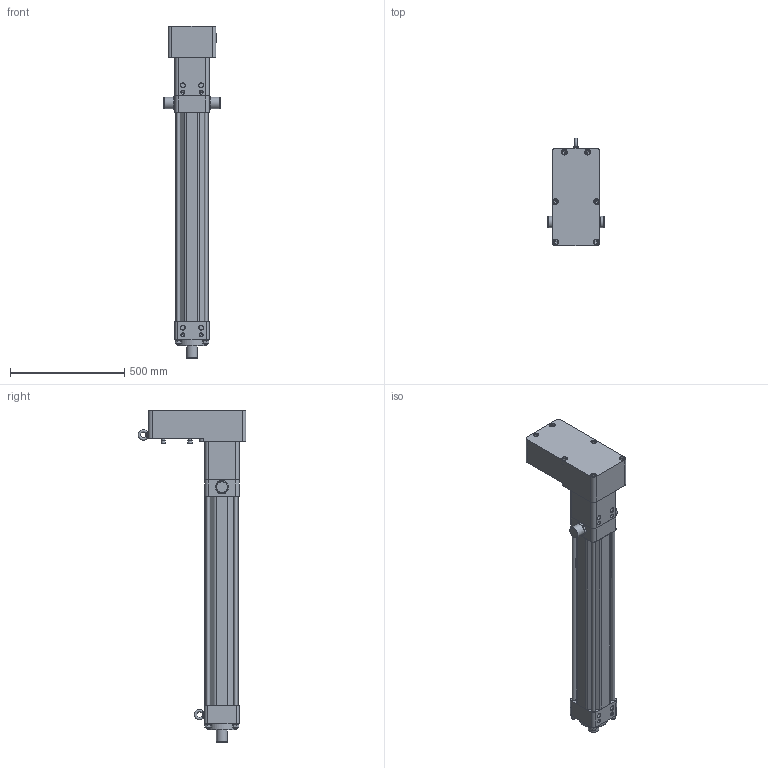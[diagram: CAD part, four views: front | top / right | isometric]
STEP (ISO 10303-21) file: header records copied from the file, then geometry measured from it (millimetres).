
FILE_DESCRIPTION (( 'STEP AP203' ), '1' );
FILE_NAME ('RSX15_BN02_SM600.000_RS-491408-1.step', '2025-06-24T22:10:43', ( '' ), ( '' ), 'SwSTEP 2.0', 'SolidWorks 2024', '' );
FILE_SCHEMA (( 'CONFIG_CONTROL_DESIGN' ));
Length unit declared in the file: inch
Products named in the file (4): Base_RSX15_BN02_SM600.000_RS-491408-1; tempJoin0_21719011_RSX15_BN02_SM600.000_RS-491408-1; tempJoin0_21719506_RSX15_BN02_SM600.000_RS-491408-1; RSX15_BN02_SM600.000_RS-491408-1
Assembly tree (3 placements, depth 2):
  RSX15_BN02_SM600.000_RS-491408-1
    tempJoin0_21719011_RSX15_BN02_SM600.000_RS-491408-1
    tempJoin0_21719506_RSX15_BN02_SM600.000_RS-491408-1
    Base_RSX15_BN02_SM600.000_RS-491408-1
Bounding box: 245 x 470.95 x 1451.15 mm (x, y, z)
Volume: 27035795.9 mm3; surface area: 2474573 mm2
Topology: 11 solids, 15 shells, 1792 faces, 4857 edges, 3185 vertices
Faces by surface type: cylinder 947, plane 741, cone 77, torus 14, bspline 12, sphere 1
Full cylindrical faces by diameter (mm): 3.175 x1, 4.762 x1, 7.9 x1, 8 x2, 8.5 x8, 10.106 x4, 10.16 x6, 12 x4, 13.835 x2, 14 x10, 15.875 x9, 16.5 x6, 18 x4, 20.013 x4, 24 x6, 25 x2, 25.4 x7, 25.527 x4, 31.75 x1, 36.513 x2, 39.738 x3, 44.45 x1, 47.625 x1, 50 x2, 50.165 x1, 50.8 x1, 65.024 x1, 74.48 x1, 74.727 x2, 75 x1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
Entity records: 58593 total; most frequent: CARTESIAN_POINT 12715, DIRECTION 10004, ORIENTED_EDGE 9208, EDGE_CURVE 4604, AXIS2_PLACEMENT_3D 3820, VERTEX_POINT 3105, VECTOR 2364, LINE 2364
